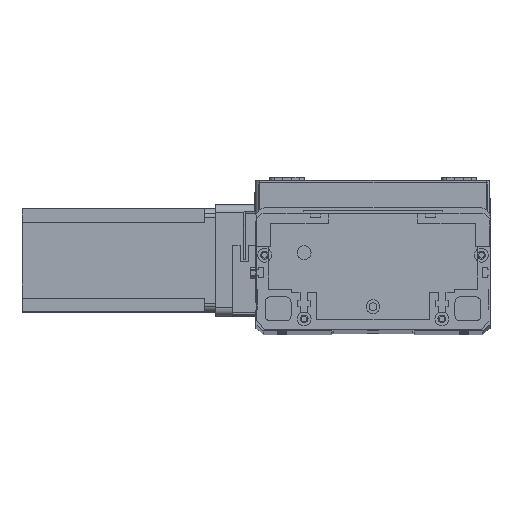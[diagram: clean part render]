
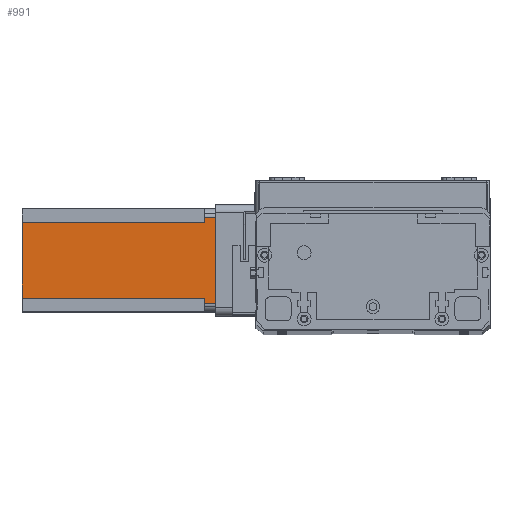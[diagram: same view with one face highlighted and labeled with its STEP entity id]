
A CAD part, top view. The second image highlights one B-rep face of the part: STEP entity #991.
In plain terms, the highlighted planar face has unit normal (0, 0, 1) as drawn and (0, -1, 0) by its records, which use the part's own axes.
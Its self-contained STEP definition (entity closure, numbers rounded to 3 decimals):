
#84 = CARTESIAN_POINT ( 'NONE',  ( 0., 0., -112.5 ) ) ;
#250 = CARTESIAN_POINT ( 'NONE',  ( 55., 0., 0. ) ) ;
#287 = EDGE_CURVE ( 'NONE', #19446, #21137, #17102, .T. ) ;
#863 = EDGE_CURVE ( 'NONE', #23265, #21137, #21158, .T. ) ;
#991 = ADVANCED_FACE ( 'NONE', ( #8515 ), #18623, .T. ) ;
#1579 = VECTOR ( 'NONE', #5247, 1000. ) ;
#1805 = ORIENTED_EDGE ( 'NONE', *, *, #287, .F. ) ;
#2202 = LINE ( 'NONE', #3260, #1579 ) ;
#2363 = ORIENTED_EDGE ( 'NONE', *, *, #5529, .T. ) ;
#2454 = CARTESIAN_POINT ( 'NONE',  ( 5., 0., -6.5 ) ) ;
#3260 = CARTESIAN_POINT ( 'NONE',  ( 8., 0., -6.5 ) ) ;
#3486 = EDGE_CURVE ( 'NONE', #13877, #23265, #17261, .T. ) ;
#3705 = CARTESIAN_POINT ( 'NONE',  ( 8., 0., -112.5 ) ) ;
#4034 = LINE ( 'NONE', #84, #8698 ) ;
#4679 = DIRECTION ( 'NONE',  ( 0., 0., 1. ) ) ;
#4975 = ORIENTED_EDGE ( 'NONE', *, *, #3486, .T. ) ;
#5247 = DIRECTION ( 'NONE',  ( -1., 0., 0. ) ) ;
#5529 = EDGE_CURVE ( 'NONE', #19446, #19920, #23667, .T. ) ;
#5701 = DIRECTION ( 'NONE',  ( 0., 0., 1. ) ) ;
#5709 = VECTOR ( 'NONE', #4679, 1000. ) ;
#6704 = DIRECTION ( 'NONE',  ( 0., 0., -1. ) ) ;
#7171 = ORIENTED_EDGE ( 'NONE', *, *, #14570, .F. ) ;
#7320 = CARTESIAN_POINT ( 'NONE',  ( 55., 0., -6.5 ) ) ;
#7515 = DIRECTION ( 'NONE',  ( 1., 0., 0. ) ) ;
#7543 = VECTOR ( 'NONE', #13156, 1000. ) ;
#7638 = CARTESIAN_POINT ( 'NONE',  ( 8., 0., -112.5 ) ) ;
#7763 = EDGE_LOOP ( 'NONE', ( #4975, #8831, #1805, #2363, #9793, #7171, #25796, #15764 ) ) ;
#8515 = FACE_OUTER_BOUND ( 'NONE', #7763, .T. ) ;
#8698 = VECTOR ( 'NONE', #14166, 1000. ) ;
#8831 = ORIENTED_EDGE ( 'NONE', *, *, #863, .T. ) ;
#8875 = CARTESIAN_POINT ( 'NONE',  ( 5., 0., 0. ) ) ;
#9067 = EDGE_CURVE ( 'NONE', #26057, #19920, #2202, .T. ) ;
#9793 = ORIENTED_EDGE ( 'NONE', *, *, #9067, .F. ) ;
#10366 = EDGE_CURVE ( 'NONE', #17374, #21373, #4034, .T. ) ;
#11891 = VECTOR ( 'NONE', #7515, 1000. ) ;
#12550 = CARTESIAN_POINT ( 'NONE',  ( 55., 0., -112.5 ) ) ;
#12930 = VECTOR ( 'NONE', #6704, 1000. ) ;
#13000 = CARTESIAN_POINT ( 'NONE',  ( 5., 0., -112.5 ) ) ;
#13156 = DIRECTION ( 'NONE',  ( 0., 0., -1. ) ) ;
#13780 = CARTESIAN_POINT ( 'NONE',  ( 0., 0., 0. ) ) ;
#13877 = VERTEX_POINT ( 'NONE', #25358 ) ;
#14166 = DIRECTION ( 'NONE',  ( 1., 0., 0. ) ) ;
#14570 = EDGE_CURVE ( 'NONE', #17374, #26057, #20266, .T. ) ;
#14833 = DIRECTION ( 'NONE',  ( 0., -1., 0. ) ) ;
#15764 = ORIENTED_EDGE ( 'NONE', *, *, #18168, .F. ) ;
#17102 = LINE ( 'NONE', #13780, #21826 ) ;
#17261 = LINE ( 'NONE', #19835, #11891 ) ;
#17374 = VERTEX_POINT ( 'NONE', #7638 ) ;
#17959 = DIRECTION ( 'NONE',  ( 1., 0., 0. ) ) ;
#18168 = EDGE_CURVE ( 'NONE', #13877, #21373, #18312, .T. ) ;
#18312 = LINE ( 'NONE', #20779, #12930 ) ;
#18623 = PLANE ( 'NONE',  #20153 ) ;
#18658 = CARTESIAN_POINT ( 'NONE',  ( 0., 0., -112.5 ) ) ;
#18828 = DIRECTION ( 'NONE',  ( 0., 0., -1. ) ) ;
#19446 = VERTEX_POINT ( 'NONE', #8875 ) ;
#19835 = CARTESIAN_POINT ( 'NONE',  ( 52., 0., -6.5 ) ) ;
#19920 = VERTEX_POINT ( 'NONE', #2454 ) ;
#20153 = AXIS2_PLACEMENT_3D ( 'NONE', #18658, #14833, #18828 ) ;
#20266 = LINE ( 'NONE', #3705, #23061 ) ;
#20779 = CARTESIAN_POINT ( 'NONE',  ( 52., 0., -112.5 ) ) ;
#21108 = CARTESIAN_POINT ( 'NONE',  ( 52., 0., -112.5 ) ) ;
#21137 = VERTEX_POINT ( 'NONE', #250 ) ;
#21158 = LINE ( 'NONE', #12550, #5709 ) ;
#21373 = VERTEX_POINT ( 'NONE', #21108 ) ;
#21826 = VECTOR ( 'NONE', #17959, 1000. ) ;
#23061 = VECTOR ( 'NONE', #5701, 1000. ) ;
#23265 = VERTEX_POINT ( 'NONE', #7320 ) ;
#23667 = LINE ( 'NONE', #13000, #7543 ) ;
#24431 = CARTESIAN_POINT ( 'NONE',  ( 8., 0., -6.5 ) ) ;
#25358 = CARTESIAN_POINT ( 'NONE',  ( 52., 0., -6.5 ) ) ;
#25796 = ORIENTED_EDGE ( 'NONE', *, *, #10366, .T. ) ;
#26057 = VERTEX_POINT ( 'NONE', #24431 ) ;
